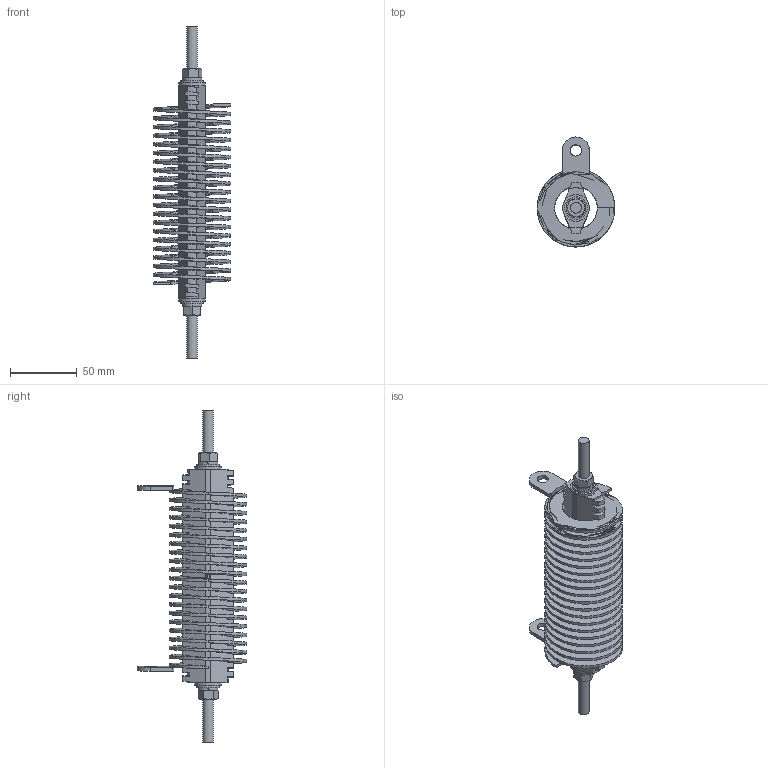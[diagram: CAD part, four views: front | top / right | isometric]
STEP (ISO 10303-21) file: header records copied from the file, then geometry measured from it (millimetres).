
FILE_DESCRIPTION(/* description */ (''),/* implementation_level */ '2;1');
FILE_NAME(/* name */ 'C:\_Vault\Dati\CATALOGO\RNT\RNT Catalogo\RNT 2.stp',/* time_stamp */ '2023-05-16T14:51:45+02:00',/* author */ ('claudio'),/* organization */ ('Fairfild Srl'),/* preprocessor_version */ 'ST-DEVELOPER v18.1',/* originating_system */ 'Autodesk Inventor 2022',/* authorisation */ '');
FILE_SCHEMA (('AUTOMOTIVE_DESIGN { 1 0 10303 214 3 1 1 }'));
Length unit declared in the file: millimetre
Products named in the file (9): RNT 2; 06M008000FZ7500000; 141000G0112M7001CH; RANELLA  ISOL. UNI SF 1630 201x10x0,50; 58008100208M500200; 600008000FZ9200030; 600008000FZ5100032; 28M008000FZ8800000; RNT 2_1
Assembly tree (13 placements, depth 2):
  RNT 2
    06M008000FZ7500000
    141000G0112M7001CH  x2
    58008100208M500200  x2
    600008000FZ9200030  x2
    600008000FZ5100032  x2
    28M008000FZ8800000  x2
    RANELLA  ISOL. UNI SF 1630 201x10x0,50
    RNT 2_1
Bounding box: 58 x 82 x 248 mm (x, y, z)
Volume: 162159.4 mm3; surface area: 123848.4 mm2
Topology: 13 solids, 13 shells, 392 faces, 1085 edges, 715 vertices
Faces by surface type: cylinder 176, bspline 106, plane 82, cone 28
Full cylindrical faces by diameter (mm): 6.647 x2, 8 x1, 8.4 x2, 8.5 x4, 9 x2, 10 x1, 17 x2, 20 x2, 32 x20, 58 x20
Entity records: 13171 total; most frequent: CARTESIAN_POINT 7266, ORIENTED_EDGE 1344, DIRECTION 815, EDGE_CURVE 672, VERTEX_POINT 444, B_SPLINE_CURVE_WITH_KNOTS 318, AXIS2_PLACEMENT_3D 282, EDGE_LOOP 253
